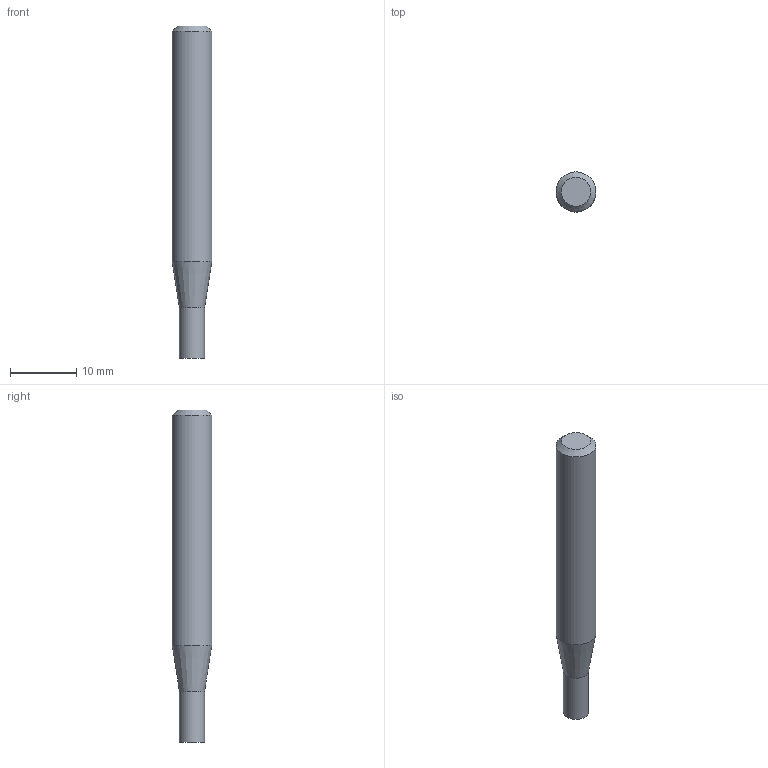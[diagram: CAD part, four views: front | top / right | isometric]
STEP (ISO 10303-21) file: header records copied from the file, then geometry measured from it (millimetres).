
FILE_DESCRIPTION((''),'2;1');
FILE_NAME('C:\Users\nsx150\AppData\Local\Temp\Mastercam 2021\98T1Q6BTT1\TEMP.step','2021-10-21T14:48:28',(''),(''),'STEP Write','Mastercam 2021 ... CNC Software, Inc.','');
FILE_SCHEMA(('AUTOMOTIVE_DESIGN'));
Length unit declared in the file: millimetre
Products named in the file (1): None
Bounding box: 6 x 6 x 50 mm (x, y, z)
Volume: 1216.3 mm3; surface area: 919.9 mm2
Topology: 2 solids, 2 shells, 8 faces, 10 edges, 6 vertices
Faces by surface type: plane 4, cylinder 2, cone 2
Full cylindrical faces by diameter (mm): 3.8 x1, 6 x1
Entity records: 190 total; most frequent: DIRECTION 32, CARTESIAN_POINT 22, AXIS2_PLACEMENT_3D 16, ORIENTED_EDGE 12, EDGE_LOOP 12, STYLED_ITEM 11, ADVANCED_FACE 8, VERTEX_POINT 6
